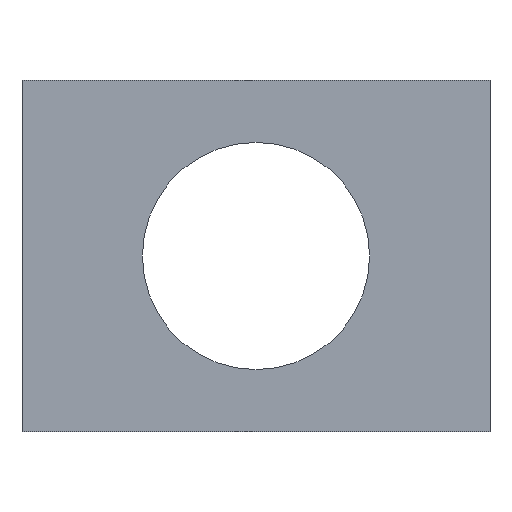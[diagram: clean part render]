
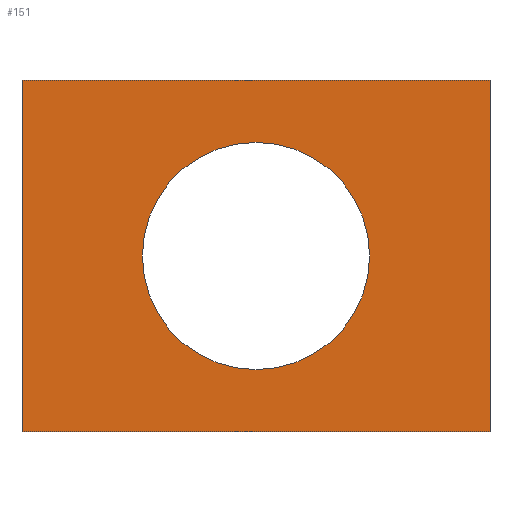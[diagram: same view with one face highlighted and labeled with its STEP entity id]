
A CAD part, front view. The second image highlights one B-rep face of the part: STEP entity #151.
In plain terms, the highlighted planar face has unit normal (0, -1, 0).
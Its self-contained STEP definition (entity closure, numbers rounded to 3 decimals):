
#18 = EDGE_CURVE ( 'NONE', #85, #89, #469, .T. ) ;
#19 = EDGE_CURVE ( 'NONE', #100, #82, #467, .T. ) ;
#25 = AXIS2_PLACEMENT_3D ( 'NONE', #314, #313, #312 ) ;
#38 = AXIS2_PLACEMENT_3D ( 'NONE', #248, #247, #244 ) ;
#45 = AXIS2_PLACEMENT_3D ( 'NONE', #375, #376, #377 ) ;
#77 = VERTEX_POINT ( 'NONE', #344 ) ;
#82 = VERTEX_POINT ( 'NONE', #336 ) ;
#84 = VERTEX_POINT ( 'NONE', #335 ) ;
#85 = VERTEX_POINT ( 'NONE', #334 ) ;
#89 = VERTEX_POINT ( 'NONE', #330 ) ;
#100 = VERTEX_POINT ( 'NONE', #319 ) ;
#103 = EDGE_LOOP ( 'NONE', ( #431, #432 ) ) ;
#118 = CIRCLE ( 'NONE', #38, 4.2 ) ;
#120 = LINE ( 'NONE', #252, #131 ) ;
#131 = VECTOR ( 'NONE', #237, 1000. ) ;
#151 = ADVANCED_FACE ( 'NONE', ( #484, #486 ), #317, .F. ) ;
#237 = DIRECTION ( 'NONE',  ( 0., 0., -1. ) ) ;
#244 = DIRECTION ( 'NONE',  ( 0., 0., 1. ) ) ;
#247 = DIRECTION ( 'NONE',  ( 0., 1., 0. ) ) ;
#248 = CARTESIAN_POINT ( 'NONE',  ( 0., -2.15, 0. ) ) ;
#252 = CARTESIAN_POINT ( 'NONE',  ( -8.65, -2.15, 6.5 ) ) ;
#312 = DIRECTION ( 'NONE',  ( 0., 0., 1. ) ) ;
#313 = DIRECTION ( 'NONE',  ( 0., 1., 0. ) ) ;
#314 = CARTESIAN_POINT ( 'NONE',  ( -8.65, -2.15, 6.5 ) ) ;
#317 = PLANE ( 'NONE',  #25 ) ;
#319 = CARTESIAN_POINT ( 'NONE',  ( -8.65, -2.15, 6.5 ) ) ;
#330 = CARTESIAN_POINT ( 'NONE',  ( 8.65, -2.15, -6.5 ) ) ;
#334 = CARTESIAN_POINT ( 'NONE',  ( -8.65, -2.15, -6.5 ) ) ;
#335 = CARTESIAN_POINT ( 'NONE',  ( 0., -2.15, 4.2 ) ) ;
#336 = CARTESIAN_POINT ( 'NONE',  ( 8.65, -2.15, 6.5 ) ) ;
#344 = CARTESIAN_POINT ( 'NONE',  ( 0., -2.15, -4.2 ) ) ;
#353 = DIRECTION ( 'NONE',  ( 1., 0., 0. ) ) ;
#354 = DIRECTION ( 'NONE',  ( 1., 0., 0. ) ) ;
#356 = CARTESIAN_POINT ( 'NONE',  ( -8.65, -2.15, -6.5 ) ) ;
#361 = CARTESIAN_POINT ( 'NONE',  ( -8.65, -2.15, 6.5 ) ) ;
#375 = CARTESIAN_POINT ( 'NONE',  ( 0., -2.15, 0. ) ) ;
#376 = DIRECTION ( 'NONE',  ( 0., 1., 0. ) ) ;
#377 = DIRECTION ( 'NONE',  ( 0., 0., 1. ) ) ;
#378 = CARTESIAN_POINT ( 'NONE',  ( 8.65, -2.15, 6.5 ) ) ;
#379 = DIRECTION ( 'NONE',  ( 0., 0., -1. ) ) ;
#416 = EDGE_CURVE ( 'NONE', #84, #77, #118, .T. ) ;
#419 = EDGE_CURVE ( 'NONE', #100, #85, #120, .T. ) ;
#427 = ORIENTED_EDGE ( 'NONE', *, *, #19, .F. ) ;
#428 = ORIENTED_EDGE ( 'NONE', *, *, #419, .T. ) ;
#429 = ORIENTED_EDGE ( 'NONE', *, *, #18, .T. ) ;
#430 = ORIENTED_EDGE ( 'NONE', *, *, #541, .F. ) ;
#431 = ORIENTED_EDGE ( 'NONE', *, *, #416, .T. ) ;
#432 = ORIENTED_EDGE ( 'NONE', *, *, #538, .T. ) ;
#467 = LINE ( 'NONE', #361, #474 ) ;
#469 = LINE ( 'NONE', #356, #472 ) ;
#472 = VECTOR ( 'NONE', #354, 1000. ) ;
#474 = VECTOR ( 'NONE', #353, 1000. ) ;
#484 = FACE_BOUND ( 'NONE', #103, .T. ) ;
#486 = FACE_OUTER_BOUND ( 'NONE', #578, .T. ) ;
#538 = EDGE_CURVE ( 'NONE', #77, #84, #558, .T. ) ;
#541 = EDGE_CURVE ( 'NONE', #82, #89, #562, .T. ) ;
#558 = CIRCLE ( 'NONE', #45, 4.2 ) ;
#562 = LINE ( 'NONE', #378, #564 ) ;
#564 = VECTOR ( 'NONE', #379, 1000. ) ;
#578 = EDGE_LOOP ( 'NONE', ( #429, #430, #427, #428 ) ) ;
